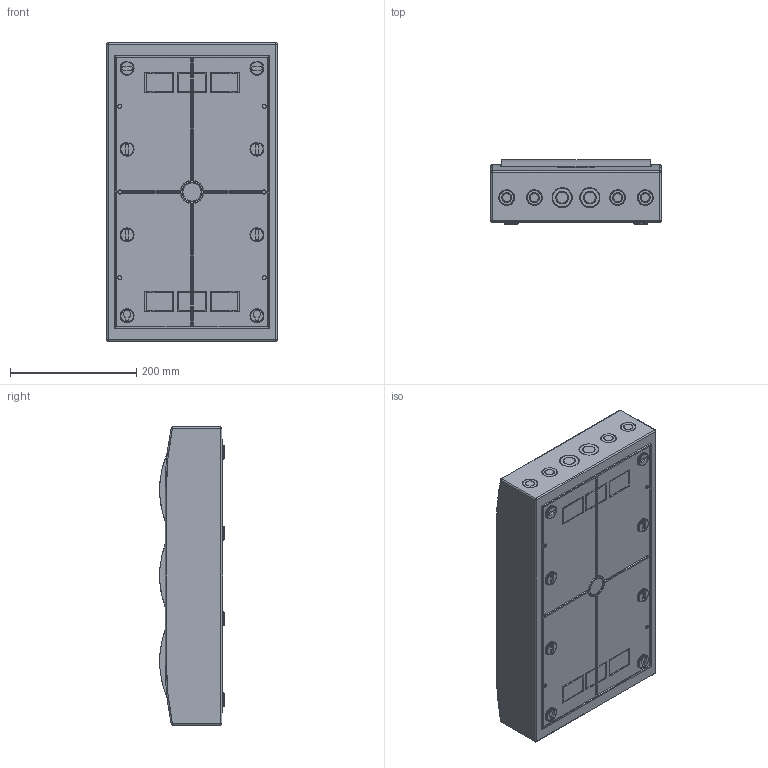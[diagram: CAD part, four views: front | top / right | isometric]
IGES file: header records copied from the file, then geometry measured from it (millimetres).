
Start section: SolidWorks IGES file using analytic representation for surfaces
Global section: file name: Q:\GROUPS\BR_SC_JGS_WA_TECNICO\ENG\Usuarios\Rodrigob\conversão\Linha Predial\Produto\Quadros QDW\QDW\QDW02-S\QDW02-36-S\QDW02-36-S.IGS; native system: SolidWorks 2012; preprocessor: SolidWorks 2012; author: rodrigob; date: 140320.142637; units: millimetre
Bounding box: 270 x 102.7 x 473 mm (x, y, z)
Surface area: 635263.5 mm2 (no closed solid volume)
Topology: 0 solids, 0 shells, 641 faces, 10425 edges, 10423 vertices
Faces by surface type: bspline 364, revolution 277
